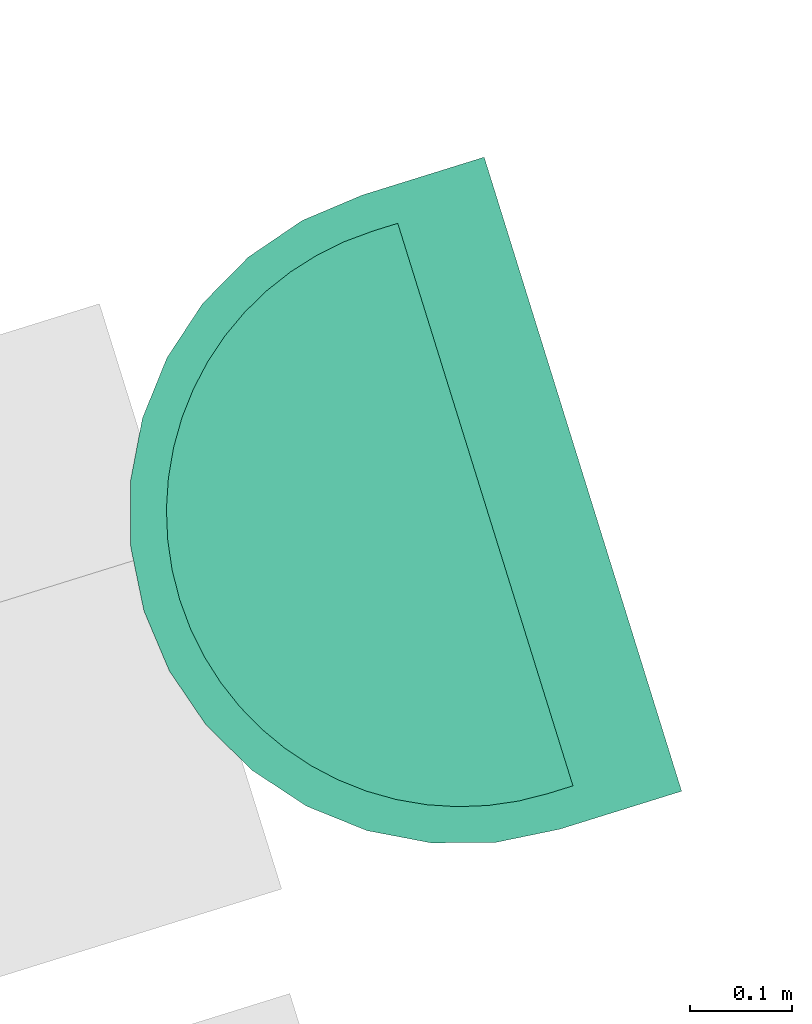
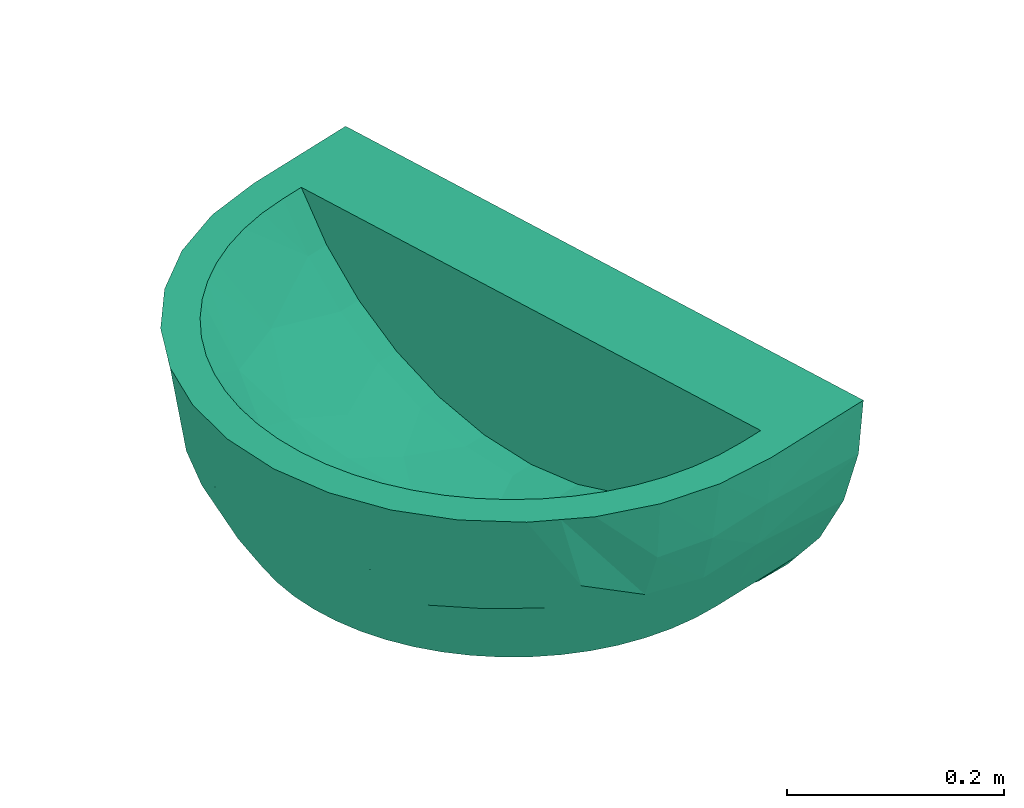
# Not in any storey, part 17 of 20: 1 sanitary terminal.
"""IFC4 model written with IfcOpenShell, lengths in metres."""

from ifc_helpers import new_model, entity, si_unit, converted_unit, direction, frame, origin, place, context, subcontext, project, polygons, source, transform, mapped, material, type_object, element, save


model = new_model("IFC4")

# Units and contexts
model_context = context("Model", 3, precision=1e-05, world=origin(), true_north=direction((6.12323399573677e-17, 1.0)))
body_context = subcontext(model_context, "Body", "Model", "MODEL_VIEW")
ifc_project = project(units=[si_unit("LENGTHUNIT", "METRE"), si_unit("AREAUNIT", "SQUARE_METRE"), si_unit("VOLUMEUNIT", "CUBIC_METRE"), converted_unit("PLANEANGLEUNIT", "DEGREE", entity("IfcPlaneAngleMeasure", 0.0174532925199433), si_unit("PLANEANGLEUNIT", "RADIAN"), dimensions=[0, 0, 0, 0, 0, 0, 0])], contexts=[model_context])

# Sanitary terminal
ifc_material = material(Name="<Unnamed>")
sanitary_terminal_type = type_object("IfcSanitaryTerminalType", Name="NLRS_74_PF_WB_wastafel_gen:wastafel", PredefinedType="SINK", material=ifc_material)
shared_shape = source(origin(), body_context, "Body", "Tessellation", [
    polygons([(-0.303081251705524, 0.175000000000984, -3.7), (-0.303081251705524, 0.0499999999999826, -3.7), (0.021918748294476, 0.0499999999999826, -3.7), (0.021918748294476, 0.150000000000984, -3.7), (-0.266395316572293, 0.150000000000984, -3.7), (-0.266395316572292, 0.175000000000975, -3.7), (-0.264816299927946, 0.205133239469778, -3.7), (-0.260095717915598, 0.234940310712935, -3.7), (-0.252285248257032, 0.264090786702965, -3.7), (-0.241470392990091, 0.292265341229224, -3.7), (-0.227769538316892, 0.319155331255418, -3.7), (-0.21133265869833, 0.344466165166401, -3.7), (-0.192339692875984, 0.367920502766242, -3.7), (-0.170998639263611, 0.389261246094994, -3.7), (-0.147543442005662, 0.408254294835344, -3.7), (-0.122231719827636, 0.424691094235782, -3.7), (-0.0953421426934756, 0.438391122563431, -3.7), (-0.0671705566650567, 0.449204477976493, -3.7), (-0.038024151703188, 0.457013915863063, -3.7), (-0.00821701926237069, 0.461734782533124, -3.7), (0.021918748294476, 0.463314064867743, -3.7), (0.021918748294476, 0.500000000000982, -3.7), (-0.0414856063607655, 0.493755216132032, -3.7), (-0.102453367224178, 0.475260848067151, -3.7), (-0.158641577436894, 0.44522762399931, -3.7), (-0.207890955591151, 0.404809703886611, -3.7), (-0.248308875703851, 0.355560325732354, -3.7), (-0.278342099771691, 0.299372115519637, -3.7), (-0.296836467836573, 0.238404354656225, -3.7), (0.346918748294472, 0.175000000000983, -3.7), (0.340673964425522, 0.238404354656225, -3.7), (0.32217959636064, 0.299372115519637, -3.7), (0.292146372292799, 0.355560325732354, -3.7), (0.2517284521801, 0.404809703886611, -3.7), (0.202479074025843, 0.44522762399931, -3.7), (0.146290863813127, 0.475260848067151, -3.7), (0.0853231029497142, 0.493755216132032, -3.7), (0.0520545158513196, 0.461734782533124, -3.7), (0.0818616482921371, 0.457013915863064, -3.7), (0.111008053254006, 0.449204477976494, -3.7), (0.139179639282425, 0.438391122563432, -3.7), (0.166069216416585, 0.424691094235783, -3.7), (0.191380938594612, 0.408254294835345, -3.7), (0.214836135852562, 0.389261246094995, -3.7), (0.236177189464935, 0.367920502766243, -3.7), (0.255170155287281, 0.344466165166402, -3.7), (0.271607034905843, 0.319155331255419, -3.7), (0.285307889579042, 0.292265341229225, -3.7), (0.296122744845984, 0.264090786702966, -3.7), (0.303933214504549, 0.234940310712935, -3.7), (0.308653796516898, 0.205133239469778, -3.7), (0.310232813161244, 0.175000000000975, -3.7), (0.310232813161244, 0.150000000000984, -3.7), (0.346918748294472, 0.0499999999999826, -3.7), (-0.298628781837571, 0.175000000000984, -3.75361232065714), (-0.285393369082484, 0.175000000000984, -3.8057556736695), (-0.263737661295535, 0.175000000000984, -3.85500134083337), (-0.234255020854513, 0.175000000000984, -3.9), (-0.234255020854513, 0.0749999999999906, -3.9), (-0.193925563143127, 0.0749999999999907, -3.94297372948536), (-0.146498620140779, 0.0749999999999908, -3.97795789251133), (-0.0935337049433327, 0.0749999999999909, -4.00380212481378), (-0.0367724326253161, 0.074999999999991, -4.01965660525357), (0.0219187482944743, 0.074999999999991, -4.025), (0.0806099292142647, 0.074999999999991, -4.01965660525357), (0.137371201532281, 0.0749999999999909, -4.00380212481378), (0.190336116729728, 0.0749999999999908, -3.97795789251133), (0.237763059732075, 0.0749999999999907, -3.94297372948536), (0.278092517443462, 0.0749999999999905, -3.9), (0.278092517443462, 0.175000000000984, -3.9), (0.307575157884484, 0.175000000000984, -3.85500134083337), (0.329230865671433, 0.175000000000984, -3.8057556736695), (0.34246627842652, 0.175000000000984, -3.75361232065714), (0.340673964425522, 0.0499999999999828, -3.76340435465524), (0.32217959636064, 0.049999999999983, -3.82437211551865), (0.292146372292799, 0.0499999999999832, -3.88056032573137), (0.2517284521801, 0.0499999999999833, -3.92980970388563), (0.202479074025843, 0.0499999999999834, -3.97022762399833), (0.146290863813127, 0.0499999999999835, -4.00026084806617), (0.085323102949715, 0.0499999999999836, -4.01875521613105), (0.0219187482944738, 0.0499999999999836, -4.025), (-0.0414856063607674, 0.0499999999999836, -4.01875521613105), (-0.102453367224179, 0.0499999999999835, -4.00026084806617), (-0.158641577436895, 0.0499999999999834, -3.97022762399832), (-0.207890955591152, 0.0499999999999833, -3.92980970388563), (-0.248308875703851, 0.0499999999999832, -3.88056032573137), (-0.278342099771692, 0.049999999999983, -3.82437211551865), (-0.296836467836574, 0.0499999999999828, -3.76340435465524), (-0.21409029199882, 0.0749999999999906, -3.92148686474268), (-0.170212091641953, 0.0749999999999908, -3.96046581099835), (0.214049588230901, 0.0749999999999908, -3.96046581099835), (0.257927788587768, 0.0749999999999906, -3.92148686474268), (0.27193741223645, 0.0499999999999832, -3.9051850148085), (0.227103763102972, 0.0499999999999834, -3.95001866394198), (0.174384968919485, 0.0499999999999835, -3.98524423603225), (0.115806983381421, 0.0499999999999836, -4.00950803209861), (-0.0719694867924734, 0.0499999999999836, -4.00950803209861), (-0.130547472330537, 0.0499999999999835, -3.98524423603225), (-0.183266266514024, 0.0499999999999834, -3.95001866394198), (-0.228099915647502, 0.0499999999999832, -3.9051850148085), (0.163853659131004, 0.0749999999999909, -3.99088000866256), (0.108990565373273, 0.0749999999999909, -4.01172936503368), (-0.0651530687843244, 0.0749999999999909, -4.01172936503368), (-0.120016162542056, 0.0749999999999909, -3.99088000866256), (0.27659082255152, 0.202697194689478, -3.9), (0.272103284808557, 0.230069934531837, -3.9), (0.264682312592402, 0.256797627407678, -3.9), (0.254414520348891, 0.282567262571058, -3.9), (0.24141970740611, 0.307076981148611, -3.9), (0.225849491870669, 0.330039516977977, -3.9), (0.207885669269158, 0.351185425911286, -3.9), (0.18773840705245, 0.370266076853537, -3.9), (0.165644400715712, 0.38705644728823, -3.9), (0.141864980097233, 0.401357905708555, -3.9), (0.116683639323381, 0.413001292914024, -3.9), (0.0904016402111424, 0.421850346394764, -3.9), (0.0633306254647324, 0.427804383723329, -3.9), (0.0357845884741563, 0.430798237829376, -3.9), (0.00807674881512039, 0.43079952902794, -3.9), (-0.0194777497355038, 0.427806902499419, -3.9), (-0.0465597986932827, 0.421851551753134, -3.9), (-0.0728496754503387, 0.412999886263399, -3.9), (-0.0980340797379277, 0.401354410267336, -3.9), (-0.121813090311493, 0.387052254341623, -3.9), (-0.1439051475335, 0.370262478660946, -3.9), (-0.164050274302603, 0.351183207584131, -3.9), (-0.182012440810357, 0.33003893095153, -3.9), (-0.197581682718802, 0.307077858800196, -3.9), (-0.210576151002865, 0.282569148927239, -3.9), (-0.220844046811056, 0.256799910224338, -3.9), (-0.228265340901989, 0.230071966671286, -3.9), (-0.232753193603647, 0.202698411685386, -3.9), (-0.257045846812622, 0.297316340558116, -3.81332461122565), (0.300884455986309, 0.297313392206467, -3.81332505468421), (-0.0097834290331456, 0.496877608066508, -3.7), (-0.205655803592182, 0.378737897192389, -3.81102113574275), (0.249493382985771, 0.378737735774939, -3.81102126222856), (0.0536209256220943, 0.496877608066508, -3.7), (0.0219337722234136, 0.481913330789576, -3.80690747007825), (-0.0719694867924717, 0.484508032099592, -3.7), (0.11580698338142, 0.484508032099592, -3.7), (-0.0425022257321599, 0.471258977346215, -3.81707073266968), (-0.165040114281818, 0.416191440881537, -3.81179477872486), (0.20887408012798, 0.416198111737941, -3.81178629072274), (0.0863501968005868, 0.471256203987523, -3.8170719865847), (-0.23446246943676, 0.305265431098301, -3.85140868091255), (0.278301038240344, 0.305263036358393, -3.85140892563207), (-0.120243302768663, 0.443687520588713, -3.81498681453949), (0.164074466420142, 0.443691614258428, -3.81498507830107), (-0.233336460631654, 0.358005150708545, -3.78353976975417), (0.277175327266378, 0.358003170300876, -3.78353992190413), (-0.290060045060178, 0.240925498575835, -3.76283359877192), (0.333897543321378, 0.240925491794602, -3.76283359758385), (-0.275008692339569, 0.237028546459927, -3.81666856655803), (-0.254394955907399, 0.239447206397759, -3.85850014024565), (-0.272362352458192, 0.296908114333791, -3.76451391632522), (0.31884634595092, 0.237026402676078, -3.81666930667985), (0.298232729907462, 0.239444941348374, -3.85850057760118), (0.316201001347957, 0.296905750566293, -3.76451312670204), (-0.0755829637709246, 0.474402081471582, -3.78047862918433), (-0.0690330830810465, 0.449635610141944, -3.84808121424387), (0.119420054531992, 0.474406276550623, -3.7804635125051), (0.112885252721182, 0.449636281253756, -3.84807095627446), (-0.228099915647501, 0.380185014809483, -3.7), (0.27193741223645, 0.380185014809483, -3.7), (-0.183266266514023, 0.425018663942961, -3.7), (0.227103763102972, 0.425018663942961, -3.7), (-0.130547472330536, 0.460244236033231, -3.7), (0.174384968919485, 0.460244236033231, -3.7), (-0.234514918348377, 0.175000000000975, -3.74966665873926), (-0.194178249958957, 0.175000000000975, -3.79274902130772), (-0.146715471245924, 0.175000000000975, -3.82782638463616), (-0.0936917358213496, 0.175000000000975, -3.85374202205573), (-0.0368555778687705, 0.175000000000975, -3.86964132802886), (0.0219187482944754, 0.175000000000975, -3.875), (0.0806930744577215, 0.175000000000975, -3.86964132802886), (0.137529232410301, 0.175000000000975, -3.85374202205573), (0.190552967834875, 0.175000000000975, -3.82782638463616), (0.238015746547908, 0.175000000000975, -3.79274902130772), (0.278352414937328, 0.175000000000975, -3.74966665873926), (-0.119627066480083, 0.322173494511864, -3.80284332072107), (0.163464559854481, 0.32217349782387, -3.8028433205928), (-0.200517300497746, 0.262511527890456, -3.77020203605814), (0.244354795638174, 0.262511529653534, -3.77020203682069), (-0.162633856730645, 0.347041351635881, -3.75485875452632), (0.206471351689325, 0.347041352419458, -3.75485875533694), (0.00220012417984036, 0.367185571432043, -3.81134437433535), (-0.0912046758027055, 0.393814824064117, -3.76200981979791), (0.135042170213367, 0.393814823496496, -3.76200982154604), (0.0498196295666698, 0.280825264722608, -3.85601887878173), (-0.0620730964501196, 0.266760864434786, -3.85025041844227), (0.160889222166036, 0.248929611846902, -3.83433540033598), (0.0405814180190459, 0.417340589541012, -3.76574926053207), (0.0863370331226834, 0.354389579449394, -3.81323879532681), (-0.00909478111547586, 0.420066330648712, -3.76120050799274), (-0.0478694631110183, 0.381606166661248, -3.79097405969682), (-0.0422183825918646, 0.327597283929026, -3.82968821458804), (-0.0074080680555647, 0.286981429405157, -3.8536858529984), (-0.00719351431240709, 0.22811728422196, -3.869305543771), (-0.0504034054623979, 0.422275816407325, -3.7481140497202), (0.115439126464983, 0.298042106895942, -3.83590134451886), (0.101584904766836, 0.237319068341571, -3.85886022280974), (-0.144773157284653, 0.251326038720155, -3.81835264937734), (0.0860600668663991, 0.418745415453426, -3.75518056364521), (-0.234512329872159, 0.150000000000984, -3.74966998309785), (-0.19417475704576, 0.150000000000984, -3.79275213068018), (-0.146711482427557, 0.150000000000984, -3.8278288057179), (-0.0936885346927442, 0.150000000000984, -3.85374324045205), (-0.0368543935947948, 0.150000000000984, -3.869641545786), (0.021917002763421, 0.150000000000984, -3.87499999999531), (0.080687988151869, 0.150000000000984, -3.86964226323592), (0.137520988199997, 0.150000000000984, -3.85374515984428), (0.19054233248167, 0.150000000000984, -3.82783283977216), (0.238003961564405, 0.150000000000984, -3.79275951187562), (0.278341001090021, 0.150000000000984, -3.74968131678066)], [[[22, 135, 23, 140, 24, 168, 25, 166, 26, 164, 27, 28, 29, 1, 2, 3, 54, 30, 31, 32, 33, 165, 34, 167, 35, 169, 36, 141, 37, 138], [21, 38, 39, 40, 41, 42, 43, 44, 45, 46, 47, 48, 49, 50, 51, 52, 53, 4, 5, 6, 7, 8, 9, 10, 11, 12, 13, 14, 15, 16, 17, 18, 19, 20]], [[55, 2, 1]], [[88, 55, 56]], [[56, 57, 87]], [[89, 100, 59]], [[97, 62, 103]], [[104, 83, 98]], [[82, 103, 63]], [[97, 103, 82]], [[63, 81, 82]], [[57, 58, 59]], [[68, 77, 94]], [[86, 59, 100]], [[86, 87, 57]], [[88, 2, 55]], [[56, 87, 88]], [[59, 86, 57]], [[98, 84, 61]], [[83, 62, 97]], [[60, 99, 85]], [[90, 61, 84]], [[69, 76, 93]], [[90, 99, 60]], [[100, 89, 85]], [[60, 85, 89]], [[78, 67, 91]], [[63, 64, 81]], [[66, 96, 102]], [[83, 104, 62]], [[68, 94, 91]], [[67, 78, 95]], [[79, 101, 95]], [[67, 95, 101]], [[72, 73, 74]], [[69, 70, 71]], [[75, 71, 72]], [[77, 68, 92]], [[81, 64, 65]], [[54, 73, 30]], [[99, 90, 84]], [[102, 80, 65]], [[79, 66, 101]], [[91, 94, 78]], [[80, 102, 96]], [[65, 80, 81]], [[66, 79, 96]], [[93, 77, 92]], [[69, 71, 76]], [[75, 76, 71]], [[72, 74, 75]], [[73, 54, 74]], [[69, 93, 92]], [[98, 61, 104]], [[74, 54, 3, 2, 88, 87, 86, 100, 85, 99, 84, 98, 83, 97, 82, 81, 80, 96, 79, 95, 78, 94, 77, 93, 76, 75]], [[143, 136, 25]], [[32, 159, 33]], [[134, 157, 158]], [[143, 125, 126]], [[146, 150, 136]], [[126, 127, 143]], [[109, 147, 108]], [[136, 143, 127]], [[125, 143, 148]], [[153, 157, 159]], [[121, 122, 161]], [[142, 135, 139]], [[153, 159, 32]], [[119, 120, 142]], [[24, 148, 143]], [[142, 160, 23]], [[147, 151, 134]], [[160, 161, 148]], [[124, 148, 123]], [[140, 148, 24]], [[160, 140, 23]], [[158, 106, 107]], [[128, 146, 136]], [[29, 28, 152]], [[148, 140, 160]], [[55, 152, 56]], [[156, 133, 154]], [[29, 55, 1]], [[152, 55, 29]], [[151, 34, 165]], [[137, 151, 147]], [[156, 28, 27]], [[121, 161, 142]], [[119, 142, 139]], [[131, 155, 130]], [[129, 130, 146]], [[149, 112, 113]], [[150, 26, 166]], [[58, 57, 155]], [[139, 118, 119]], [[56, 154, 57]], [[155, 57, 154]], [[161, 123, 148]], [[138, 145, 139]], [[155, 146, 130]], [[127, 128, 136]], [[133, 164, 150]], [[155, 132, 58]], [[161, 160, 142]], [[145, 138, 37]], [[71, 70, 158]], [[128, 129, 146]], [[139, 135, 22]], [[138, 139, 22]], [[139, 145, 118]], [[135, 142, 23]], [[145, 116, 117]], [[114, 149, 113]], [[149, 141, 36]], [[144, 35, 137]], [[154, 152, 156]], [[146, 155, 133]], [[110, 144, 137]], [[148, 124, 125]], [[163, 145, 162]], [[151, 165, 134]], [[144, 112, 149]], [[137, 109, 110]], [[118, 145, 117]], [[154, 133, 155]], [[162, 145, 37]], [[28, 156, 152]], [[150, 146, 133]], [[24, 143, 25, 168]], [[111, 112, 144]], [[110, 111, 144]], [[116, 145, 163]], [[137, 167, 151]], [[109, 137, 147]], [[120, 121, 142]], [[71, 158, 157]], [[107, 147, 158]], [[162, 37, 141]], [[147, 134, 158]], [[107, 108, 147]], [[157, 72, 71]], [[70, 105, 158]], [[152, 154, 56]], [[153, 31, 73]], [[114, 115, 163]], [[137, 35, 167]], [[156, 164, 133]], [[30, 73, 31]], [[153, 73, 72]], [[150, 166, 136]], [[157, 134, 159]], [[105, 106, 158]], [[31, 153, 32]], [[144, 36, 169, 35]], [[155, 131, 132]], [[164, 26, 150]], [[159, 134, 165]], [[157, 153, 72]], [[161, 122, 123]], [[141, 149, 162]], [[149, 114, 163]], [[149, 163, 162]], [[116, 163, 115]], [[164, 156, 27]], [[165, 33, 159]], [[25, 136, 166]], [[34, 151, 167]], [[36, 144, 149]], [[16, 15, 185]], [[190, 187, 198]], [[14, 13, 185]], [[199, 202, 190]], [[197, 198, 187]], [[183, 185, 11]], [[188, 17, 16]], [[191, 197, 181]], [[21, 195, 193]], [[193, 194, 204]], [[191, 203, 173]], [[197, 187, 196]], [[195, 200, 196]], [[20, 195, 21]], [[188, 16, 185]], [[195, 196, 187]], [[188, 196, 200]], [[198, 197, 191]], [[8, 183, 9]], [[188, 200, 18]], [[8, 7, 170]], [[201, 194, 190]], [[192, 201, 202]], [[170, 7, 6]], [[10, 9, 183]], [[20, 19, 200]], [[203, 183, 171]], [[173, 203, 172]], [[190, 202, 201]], [[171, 183, 170]], [[170, 183, 8]], [[185, 13, 12]], [[10, 183, 11]], [[179, 184, 178]], [[17, 188, 18]], [[12, 11, 185]], [[198, 199, 190]], [[14, 185, 15]], [[196, 188, 181]], [[174, 199, 191]], [[195, 187, 193]], [[182, 189, 194]], [[186, 42, 189]], [[182, 192, 184]], [[202, 176, 177]], [[189, 41, 40]], [[39, 38, 204]], [[43, 42, 186]], [[45, 44, 186]], [[197, 196, 181]], [[186, 184, 47]], [[194, 193, 187]], [[204, 189, 40]], [[186, 47, 46]], [[194, 201, 182]], [[44, 43, 186]], [[174, 175, 199]], [[48, 47, 184]], [[42, 41, 189]], [[174, 191, 173]], [[178, 184, 192]], [[192, 177, 178]], [[182, 184, 186]], [[181, 183, 203]], [[199, 198, 191]], [[181, 188, 185]], [[179, 180, 184]], [[200, 195, 20]], [[18, 200, 19]], [[180, 50, 184]], [[52, 51, 180]], [[50, 180, 51]], [[38, 21, 193]], [[46, 45, 186]], [[202, 199, 175]], [[184, 50, 49]], [[48, 184, 49]], [[181, 185, 183]], [[192, 182, 201]], [[40, 39, 204]], [[190, 194, 187]], [[182, 186, 189]], [[192, 202, 177]], [[175, 176, 202]], [[181, 203, 191]], [[172, 203, 171]], [[189, 204, 194]], [[193, 204, 38]], [[6, 5, 170]], [[170, 205, 171]], [[173, 172, 207]], [[206, 172, 171]], [[174, 173, 208]], [[170, 5, 205]], [[171, 205, 206]], [[174, 209, 210]], [[173, 207, 208]], [[174, 208, 209]], [[207, 172, 206]], [[210, 175, 174]], [[176, 175, 211]], [[176, 212, 177]], [[179, 178, 214]], [[213, 178, 177]], [[180, 179, 215]], [[212, 176, 211]], [[213, 177, 212]], [[214, 215, 179]], [[178, 213, 214]], [[53, 180, 215]], [[180, 53, 52]], [[210, 211, 175]], [[215, 214, 213, 212, 211, 210, 209, 208, 207, 206, 205, 5, 4, 53]], [[67, 101, 66, 102, 65, 64, 63, 103, 62, 104, 61, 90, 60, 89, 59, 69, 92, 68, 91]], [[69, 59, 58, 132, 131, 130, 129, 128, 127, 126, 125, 124, 123, 122, 121, 120, 119, 118, 117, 116, 115, 114, 113, 112, 111, 110, 109, 108, 107, 106, 105, 70]]], closed=True),
])
placement_1 = place(None, frame((13.1347999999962, 11.9886000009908, 0.0), z_axis=(0.0, 0.0, 1.0), x_axis=(0.954770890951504, 0.297342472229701, 0.0)))
placement_2 = place(placement_1, origin())
placement_3 = place(placement_2, frame((0.0, 0.0, 3.9)))
placement_4 = place(placement_3, origin())
sanitary_terminal_placement = place(placement_4, frame((22.7749999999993, 17.9530812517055, 4.525), z_axis=(0.0, 0.0, 1.0), x_axis=(0.0, 1.0, 0.0)))
element("IfcSanitaryTerminal", 1, at=sanitary_terminal_placement, type_object=sanitary_terminal_type, material=ifc_material, Name="NLRS_74_PF_WB_wastafel_gen:wastafel", ObjectType="NLRS_74_PF_WB_wastafel_gen:wastafel", PredefinedType="SINK", context=body_context, shape_type="MappedRepresentation", body=[
    mapped(shared_shape, transform((0.0, 0.0, 0.0), scale=1.0)),
])

save(model, "model.ifc")
